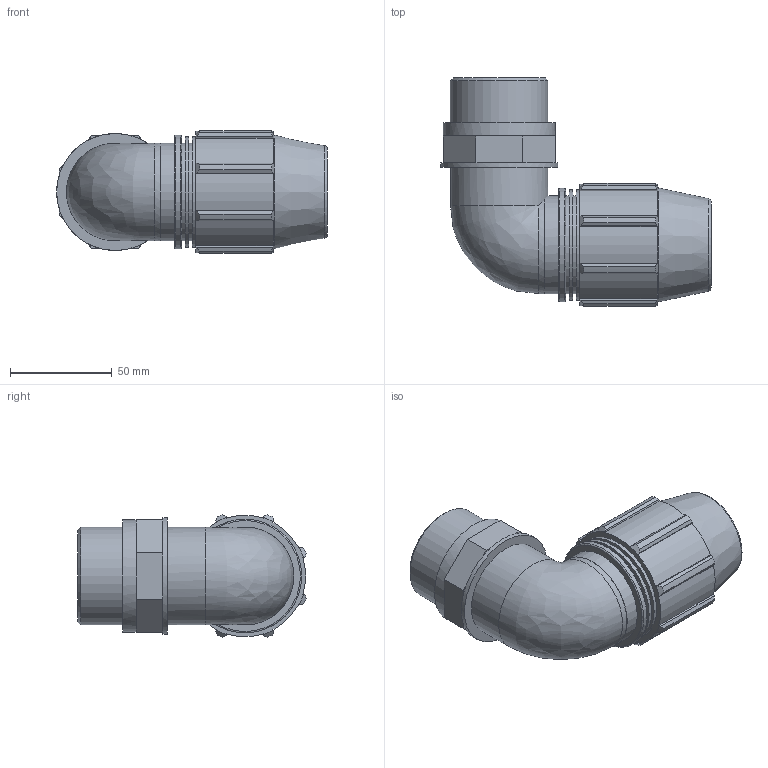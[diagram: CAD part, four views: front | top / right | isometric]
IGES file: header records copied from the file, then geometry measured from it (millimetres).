
Global section: file name: 077700032015_187700032015_0777060320150A.ipt; native system: Autodesk Inventor 2015; preprocessor: unknown; author: KIM; date: 20170622.103058; units: millimetre
Bounding box: 132.68 x 112.11 x 60.22 mm (x, y, z)
Volume: 232565.9 mm3; surface area: 55395.5 mm2
Topology: 1 solids, 1 shells, 125 faces, 321 edges, 206 vertices
Faces by surface type: plane 76, cylinder 27, cone 12, revolution 9, bspline 1
Full cylindrical faces by diameter (mm): 47.803 x2, 48 x3, 54.01 x2, 54.973 x1, 55.68 x1, 57.364 x1
